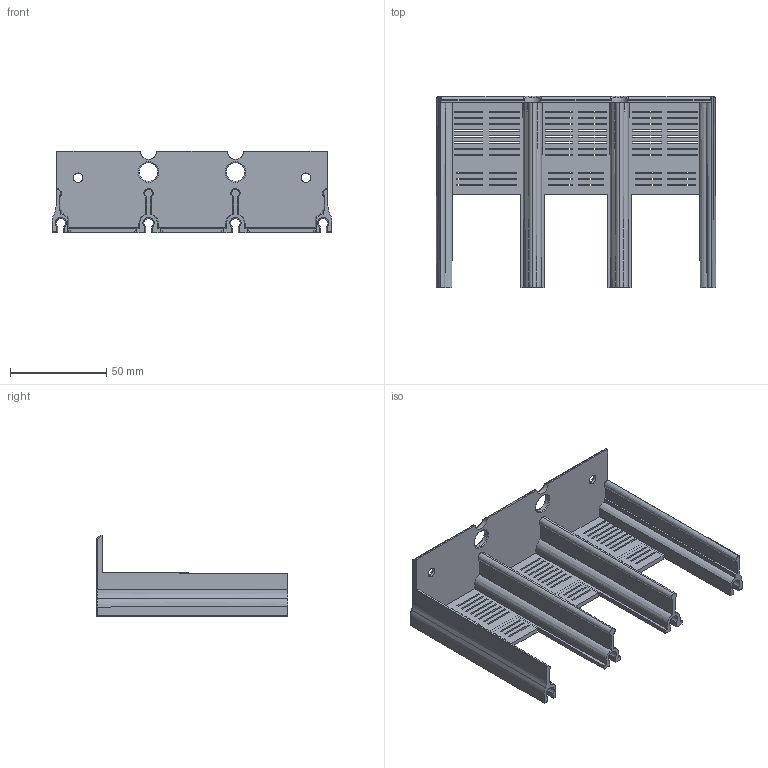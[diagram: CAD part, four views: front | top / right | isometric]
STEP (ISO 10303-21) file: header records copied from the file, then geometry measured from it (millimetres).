
FILE_DESCRIPTION (( 'STEP AP203' ), '1' );
FILE_NAME ('8LD.300.0142-M5-400.STEP', '2024-11-05T02:38:52', ( 'A' ), ( '' ), 'SwSTEP 2.0', 'SolidWorks 2018', '' );
FILE_SCHEMA (( 'CONFIG_CONTROL_DESIGN' ));
Length unit declared in the file: millimetre
Products named in the file (1): 8LD.300.0142-M5-400
Bounding box: 145.04 x 99 x 42.3 mm (x, y, z)
Volume: 56678.2 mm3; surface area: 55248.7 mm2
Topology: 1 solids, 1 shells, 455 faces, 1290 edges, 835 vertices
Faces by surface type: plane 344, cylinder 40, cone 36, bspline 17, torus 10, sphere 8
Entity records: 15473 total; most frequent: CARTESIAN_POINT 3576, ORIENTED_EDGE 2576, DIRECTION 2168, EDGE_CURVE 1288, LINE 1054, VECTOR 1054, VERTEX_POINT 835, EDGE_LOOP 595
